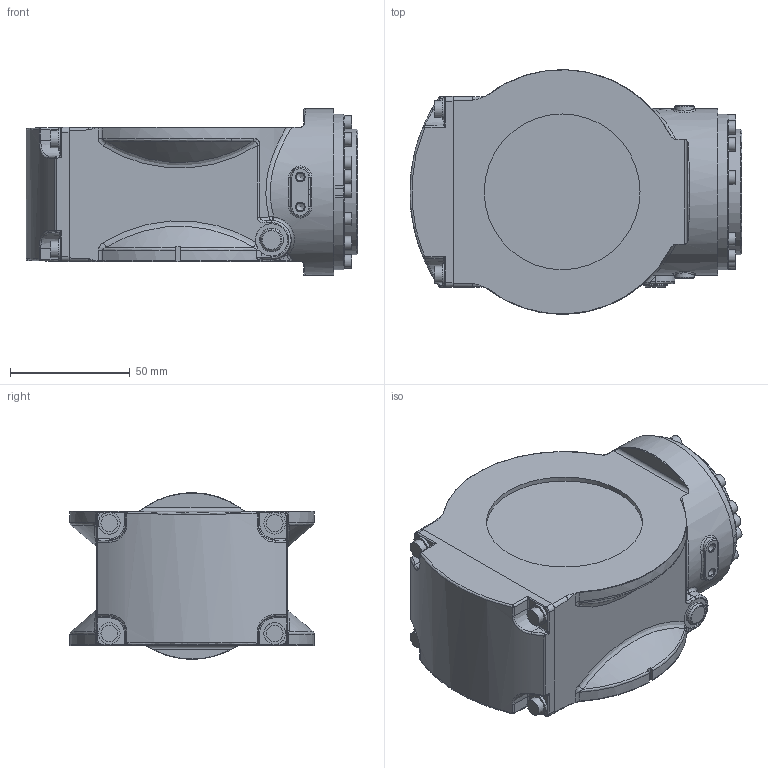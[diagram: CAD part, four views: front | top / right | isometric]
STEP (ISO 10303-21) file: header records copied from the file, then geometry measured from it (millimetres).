
FILE_DESCRIPTION (( 'STEP AP203' ), '1' );
FILE_NAME ('IRB1200GEN2_7kg-710_BTM_OC_00_Link05_CAD.STEP', '2025-06-16T03:03:01', ( '' ), ( '' ), 'SwSTEP 2.0', 'SolidWorks 2022', '' );
FILE_SCHEMA (( 'CONFIG_CONTROL_DESIGN' ));
Length unit declared in the file: millimetre
Products named in the file (1): IRB1200GEN2_7kg-710_BTM_OC_00_Link05_CAD
Bounding box: 138.42 x 101.99 x 69.49 mm (x, y, z)
Volume: 558282.7 mm3; surface area: 48277 mm2
Topology: 1 solids, 1 shells, 363 faces, 855 edges, 497 vertices
Faces by surface type: bspline 107, cylinder 103, plane 96, torus 27, cone 22, sphere 8
Full cylindrical faces by diameter (mm): 3.3 x4, 5.5 x11, 5.68 x4, 6 x1, 7 x4, 9 x4, 9.9 x1, 13.5 x1, 20 x1, 52.5 x1, 65 x2, 69.5 x1
Entity records: 16172 total; most frequent: CARTESIAN_POINT 9198, ORIENTED_EDGE 1528, DIRECTION 1263, EDGE_CURVE 764, AXIS2_PLACEMENT_3D 548, VERTEX_POINT 465, EDGE_LOOP 425, FACE_OUTER_BOUND 401
